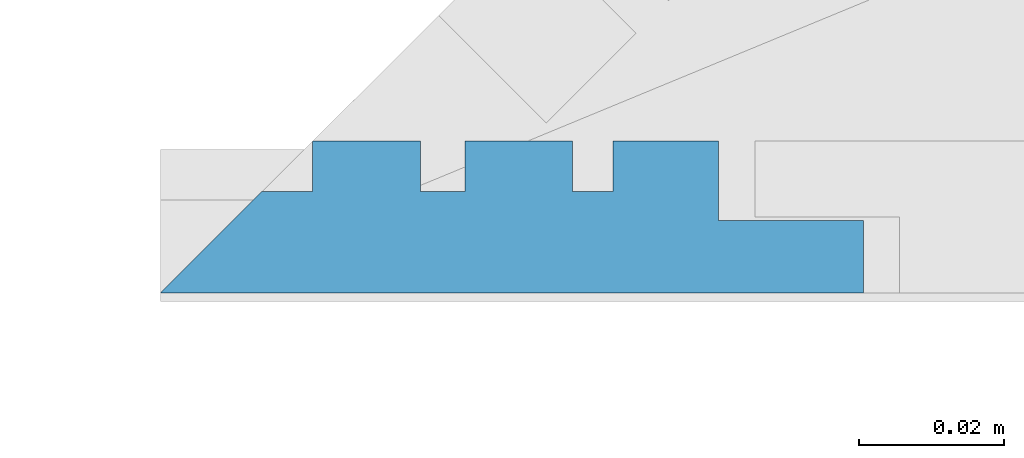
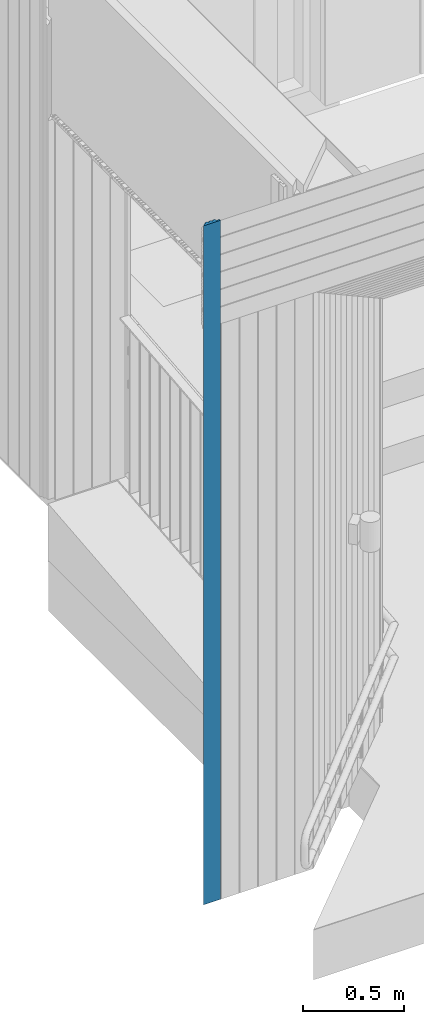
# One storey, part 95 of 418: 1 building element part, 1 element without a shape of its own.
"""IFC2X3 building model written with IfcOpenShell, lengths in millimetres."""

from ifc_helpers import new_model, entity, si_unit, converted_unit, derived_unit, money_unit, direction, frame, origin_with_axes, place, context, subcontext, project, spatial, polyline, outline, extrude, boolean, faceted_brep, material, type_object, element, aggregate, save


model = new_model("IFC2X3")

# Units and contexts
model_context = context("Model", 3, precision=0.01, world=origin_with_axes(), true_north=direction((0.0, 1.0)))
body_context = subcontext(model_context, "Body", "Model", "MODEL_VIEW")
ifc_project = project(units=[si_unit("LENGTHUNIT", "METRE", prefix="MILLI"), si_unit("AREAUNIT", "SQUARE_METRE"), si_unit("VOLUMEUNIT", "CUBIC_METRE"), converted_unit("PLANEANGLEUNIT", "DEGREE", entity("IfcPlaneAngleMeasure", 0.0174532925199), si_unit("PLANEANGLEUNIT", "RADIAN"), dimensions=[0, 0, 0, 0, 0, 0, 0]), si_unit("SOLIDANGLEUNIT", "STERADIAN"), money_unit("EUR"), converted_unit("TIMEUNIT", "Year", entity("IfcTimeMeasure", 31556926.0), si_unit("TIMEUNIT", "SECOND"), dimensions=[0, 0, 1, 0, 0, 0, 0]), si_unit("MASSUNIT", "GRAM", prefix="KILO"), si_unit("THERMODYNAMICTEMPERATUREUNIT", "DEGREE_CELSIUS"), si_unit("LUMINOUSINTENSITYUNIT", "LUMEN"), si_unit("ENERGYUNIT", "JOULE", prefix="MEGA"), derived_unit("THERMALCONDUCTANCEUNIT", [(si_unit("POWERUNIT", "WATT"), 1), (si_unit("LENGTHUNIT", "METRE"), -1), (si_unit("THERMODYNAMICTEMPERATUREUNIT", "KELVIN"), -1)]), derived_unit("SPECIFICHEATCAPACITYUNIT", [(si_unit("ENERGYUNIT", "JOULE"), 1), (si_unit("MASSUNIT", "GRAM", prefix="KILO"), -1), (si_unit("THERMODYNAMICTEMPERATUREUNIT", "KELVIN"), -1)]), derived_unit("MASSDENSITYUNIT", [(si_unit("MASSUNIT", "GRAM", prefix="KILO"), 1), (si_unit("VOLUMEUNIT", "CUBIC_METRE"), -1)])], contexts=[model_context])

# Site, building, storey
site_placement = place(None, origin_with_axes())
site = spatial("IfcSite", under=ifc_project, at=site_placement, Name="Paldiski mnt 245/1, Tallinn, Harjumaa", CompositionType="COMPLEX")
building_placement = place(site_placement, origin_with_axes())
building = spatial("IfcBuilding", under=site, at=building_placement, Name="RKAS Hoone üldnimetus (kasutust iseloomustav) -> IFC Project Manager -> SOLIBRI", CompositionType="ELEMENT")
storey_placement = place(building_placement, origin_with_axes())
storey = spatial("IfcBuildingStorey", under=building, at=storey_placement, Name="Esimene korrus", CompositionType="ELEMENT", Elevation=0.0)

# Proxy, building element part
building_element_proxy_type = type_object("IfcBuildingElementProxyType", Name="Laudis esiprofiil_01 21 x 622", PredefinedType="NOTDEFINED")
proxy_placement = place(storey_placement, frame((-45641.4622152, -18705.5141429, 0.0), z_axis=(0.0, 0.0, 1.0), x_axis=(0.0, 1.0, 0.0)))
proxy = element("IfcBuildingElementProxy", 1, at=proxy_placement, inside=storey, type_object=building_element_proxy_type, Name="Varikatus")
ifc_material = material(Name="Laudis 5072 Honka 45 horisontaalne raastas")
building_element_part_placement = place(proxy_placement, origin_with_axes())
building_element_part = element("IfcBuildingElementPart", 2, at=building_element_part_placement, material=ifc_material, Name="Laudis 5072 Honka 45 horisontaalne raastas", context=body_context, shape_type="CSG", body=[
    boolean("DIFFERENCE", boolean("DIFFERENCE", boolean("DIFFERENCE", boolean("DIFFERENCE", boolean("DIFFERENCE", boolean("DIFFERENCE", extrude(outline(polyline([(-21.0000013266, -55.7545733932), (-14.0000008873, -55.7545748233), (-14.0000008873, -61.3952431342), (-21.0000013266, -61.3952431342), (-21.0000013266, -75.9714304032), (-10.0000014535, -75.9714304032), (-10.0000000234, -95.9714304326), (-1.43879088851e-06, -95.9714304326), (8.28322394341e-09, 1.13997680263), (-14.0000008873, -12.860024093), (-14.0000008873, -19.8600231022), (-20.9999998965, -19.8600231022), (-20.9999998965, -34.7991407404), (-14.0000008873, -34.7991393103), (-14.0000008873, -40.9260801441), (-20.9999998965, -40.9260801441), (-21.0000013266, -55.7545733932)])), frame((0.0, 0.0, 0.0), z_axis=(0.0, 0.0, -1.0), x_axis=(-1.0, 0.0, 0.0)), (0.0, 0.0, -1.0), 4086.15997799), faceted_brep([(7.63172636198e-07, -515.971430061, 3569.02857112), (10.0000002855, -515.971430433, 3569.02857075), (10.0000002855, -515.971430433, 4086.15997799), (7.63172636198e-07, -515.971430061, 4086.15997799), (10.000001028, -495.971430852, 3589.02857033), (-3.20348192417e-08, -415.971430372, 3669.02857081), (10.5000010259, -415.971430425, 3669.02857076), (10.5000005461, -395.971429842, 3689.02857134), (20.9999998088, -395.971430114, 3689.02857107), (21.0000010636, -433.497524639, 3651.50247655), (14.0000005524, -433.497525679, 3651.50247551), (14.0000003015, -439.860022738, 3645.13997845), (20.99999981, -439.860022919, 3645.13997827), (20.9999998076, -454.79914009, 3630.20086109), (14.0000002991, -454.799139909, 3630.20086128), (14.0000007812, -460.926080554, 3624.07392063), (21.0000002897, -460.926080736, 3624.07392045), (21.0000013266, -475.754573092, 3609.24542809), (14.0000008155, -475.754574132, 3609.24542705), (14.0000015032, -481.395242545, 3603.60475864), (21.0000010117, -481.395242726, 3603.60475846), (21.0000007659, -495.971429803, 3589.02857138), (10.000001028, -495.971430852, 4086.15997799), (10.5000010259, -415.971430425, 4086.15997799), (-3.20348192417e-08, -415.971430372, 4086.15997799), (21.0000007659, -495.971429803, 4086.15997799), (21.0000010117, -481.395242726, 4086.15997799), (14.0000015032, -481.395242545, 4086.15997799), (14.0000008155, -475.754574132, 4086.15997799), (21.0000013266, -475.754573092, 4086.15997799), (21.0000002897, -460.926080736, 4086.15997799), (14.0000007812, -460.926080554, 4086.15997799), (14.0000002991, -454.799139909, 4086.15997799), (20.9999998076, -454.79914009, 4086.15997799), (20.99999981, -439.860022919, 4086.15997799), (14.0000003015, -439.860022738, 4086.15997799), (14.0000005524, -433.497525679, 4086.15997799), (21.0000010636, -433.497524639, 4086.15997799), (20.9999998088, -395.971430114, 4086.15997799), (10.5000005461, -395.971429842, 4086.15997799)], [[[0, 1, 2, 3]], [[4, 1, 0, 5, 6, 7, 8, 9, 10, 11, 12, 13, 14, 15, 16, 17, 18, 19, 20, 21]], [[1, 4, 22, 2]], [[23, 24, 3, 2, 22, 25, 26, 27, 28, 29, 30, 31, 32, 33, 34, 35, 36, 37, 38, 39]], [[5, 0, 3, 24]], [[6, 5, 24, 23]], [[7, 6, 23, 39]], [[8, 7, 39, 38]], [[9, 8, 38, 37]], [[10, 9, 37, 36]], [[11, 10, 36, 35]], [[12, 11, 35, 34]], [[13, 12, 34, 33]], [[14, 13, 33, 32]], [[15, 14, 32, 31]], [[16, 15, 31, 30]], [[17, 16, 30, 29]], [[18, 17, 29, 28]], [[19, 18, 28, 27]], [[20, 19, 27, 26]], [[21, 20, 26, 25]], [[4, 21, 25, 22]]])), faceted_brep([(7.63172636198e-07, -620.971430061, 3464.02857112), (10.0000002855, -620.971430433, 3464.02857075), (10.0000002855, -620.971430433, 4086.15997799), (7.63172636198e-07, -620.971430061, 4086.15997799), (10.000001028, -600.971430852, 3484.02857033), (-3.20348192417e-08, -520.971430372, 3564.02857081), (10.5000010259, -520.971430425, 3564.02857076), (10.5000005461, -500.971429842, 3584.02857134), (20.9999998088, -500.971430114, 3584.02857107), (21.0000010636, -538.497524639, 3546.50247655), (14.0000005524, -538.497525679, 3546.50247551), (14.0000003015, -544.860022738, 3540.13997845), (20.99999981, -544.860022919, 3540.13997827), (20.9999998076, -559.79914009, 3525.20086109), (14.0000002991, -559.799139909, 3525.20086128), (14.0000007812, -565.926080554, 3519.07392063), (21.0000002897, -565.926080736, 3519.07392045), (21.0000013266, -580.754573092, 3504.24542809), (14.0000008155, -580.754574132, 3504.24542705), (14.0000015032, -586.395242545, 3498.60475864), (21.0000010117, -586.395242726, 3498.60475846), (21.0000007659, -600.971429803, 3484.02857138), (10.000001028, -600.971430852, 4086.15997799), (10.5000010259, -520.971430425, 4086.15997799), (-3.20348192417e-08, -520.971430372, 4086.15997799), (21.0000007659, -600.971429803, 4086.15997799), (21.0000010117, -586.395242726, 4086.15997799), (14.0000015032, -586.395242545, 4086.15997799), (14.0000008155, -580.754574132, 4086.15997799), (21.0000013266, -580.754573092, 4086.15997799), (21.0000002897, -565.926080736, 4086.15997799), (14.0000007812, -565.926080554, 4086.15997799), (14.0000002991, -559.799139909, 4086.15997799), (20.9999998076, -559.79914009, 4086.15997799), (20.99999981, -544.860022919, 4086.15997799), (14.0000003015, -544.860022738, 4086.15997799), (14.0000005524, -538.497525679, 4086.15997799), (21.0000010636, -538.497524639, 4086.15997799), (20.9999998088, -500.971430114, 4086.15997799), (10.5000005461, -500.971429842, 4086.15997799)], [[[0, 1, 2, 3]], [[4, 1, 0, 5, 6, 7, 8, 9, 10, 11, 12, 13, 14, 15, 16, 17, 18, 19, 20, 21]], [[1, 4, 22, 2]], [[23, 24, 3, 2, 22, 25, 26, 27, 28, 29, 30, 31, 32, 33, 34, 35, 36, 37, 38, 39]], [[5, 0, 3, 24]], [[6, 5, 24, 23]], [[7, 6, 23, 39]], [[8, 7, 39, 38]], [[9, 8, 38, 37]], [[10, 9, 37, 36]], [[11, 10, 36, 35]], [[12, 11, 35, 34]], [[13, 12, 34, 33]], [[14, 13, 33, 32]], [[15, 14, 32, 31]], [[16, 15, 31, 30]], [[17, 16, 30, 29]], [[18, 17, 29, 28]], [[19, 18, 28, 27]], [[20, 19, 27, 26]], [[21, 20, 26, 25]], [[4, 21, 25, 22]]])), faceted_brep([(7.63172636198e-07, -305.971430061, 3779.02857112), (10.0000002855, -305.971430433, 3779.02857075), (10.0000002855, -305.971430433, 4086.15997799), (7.63172636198e-07, -305.971430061, 4086.15997799), (10.000001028, -285.971430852, 3799.02857033), (-3.20348192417e-08, -205.971430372, 3879.02857081), (10.5000010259, -205.971430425, 3879.02857076), (10.5000005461, -185.971429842, 3899.02857134), (20.9999998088, -185.971430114, 3899.02857107), (21.0000010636, -223.497524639, 3861.50247655), (14.0000005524, -223.497525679, 3861.50247551), (14.0000003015, -229.860022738, 3855.13997845), (20.99999981, -229.860022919, 3855.13997827), (20.9999998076, -244.79914009, 3840.20086109), (14.0000002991, -244.799139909, 3840.20086128), (14.0000007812, -250.926080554, 3834.07392063), (21.0000002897, -250.926080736, 3834.07392045), (21.0000013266, -265.754573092, 3819.24542809), (14.0000008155, -265.754574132, 3819.24542705), (14.0000015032, -271.395242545, 3813.60475864), (21.0000010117, -271.395242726, 3813.60475846), (21.0000007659, -285.971429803, 3799.02857138), (10.000001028, -285.971430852, 4086.15997799), (10.5000010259, -205.971430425, 4086.15997799), (-3.20348192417e-08, -205.971430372, 4086.15997799), (21.0000007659, -285.971429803, 4086.15997799), (21.0000010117, -271.395242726, 4086.15997799), (14.0000015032, -271.395242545, 4086.15997799), (14.0000008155, -265.754574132, 4086.15997799), (21.0000013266, -265.754573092, 4086.15997799), (21.0000002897, -250.926080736, 4086.15997799), (14.0000007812, -250.926080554, 4086.15997799), (14.0000002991, -244.799139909, 4086.15997799), (20.9999998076, -244.79914009, 4086.15997799), (20.99999981, -229.860022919, 4086.15997799), (14.0000003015, -229.860022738, 4086.15997799), (14.0000005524, -223.497525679, 4086.15997799), (21.0000010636, -223.497524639, 4086.15997799), (20.9999998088, -185.971430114, 4086.15997799), (10.5000005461, -185.971429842, 4086.15997799)], [[[0, 1, 2, 3]], [[4, 1, 0, 5, 6, 7, 8, 9, 10, 11, 12, 13, 14, 15, 16, 17, 18, 19, 20, 21]], [[1, 4, 22, 2]], [[23, 24, 3, 2, 22, 25, 26, 27, 28, 29, 30, 31, 32, 33, 34, 35, 36, 37, 38, 39]], [[5, 0, 3, 24]], [[6, 5, 24, 23]], [[7, 6, 23, 39]], [[8, 7, 39, 38]], [[9, 8, 38, 37]], [[10, 9, 37, 36]], [[11, 10, 36, 35]], [[12, 11, 35, 34]], [[13, 12, 34, 33]], [[14, 13, 33, 32]], [[15, 14, 32, 31]], [[16, 15, 31, 30]], [[17, 16, 30, 29]], [[18, 17, 29, 28]], [[19, 18, 28, 27]], [[20, 19, 27, 26]], [[21, 20, 26, 25]], [[4, 21, 25, 22]]])), faceted_brep([(7.63172636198e-07, -410.971430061, 3674.02857112), (10.0000002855, -410.971430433, 3674.02857075), (10.0000002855, -410.971430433, 4086.15997799), (7.63172636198e-07, -410.971430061, 4086.15997799), (10.000001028, -390.971430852, 3694.02857033), (-3.20348192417e-08, -310.971430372, 3774.02857081), (10.5000010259, -310.971430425, 3774.02857076), (10.5000005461, -290.971429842, 3794.02857134), (20.9999998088, -290.971430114, 3794.02857107), (21.0000010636, -328.497524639, 3756.50247655), (14.0000005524, -328.497525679, 3756.50247551), (14.0000003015, -334.860022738, 3750.13997845), (20.99999981, -334.860022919, 3750.13997827), (20.9999998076, -349.79914009, 3735.20086109), (14.0000002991, -349.799139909, 3735.20086128), (14.0000007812, -355.926080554, 3729.07392063), (21.0000002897, -355.926080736, 3729.07392045), (21.0000013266, -370.754573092, 3714.24542809), (14.0000008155, -370.754574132, 3714.24542705), (14.0000015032, -376.395242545, 3708.60475864), (21.0000010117, -376.395242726, 3708.60475846), (21.0000007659, -390.971429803, 3694.02857138), (10.000001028, -390.971430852, 4086.15997799), (10.5000010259, -310.971430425, 4086.15997799), (-3.20348192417e-08, -310.971430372, 4086.15997799), (21.0000007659, -390.971429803, 4086.15997799), (21.0000010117, -376.395242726, 4086.15997799), (14.0000015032, -376.395242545, 4086.15997799), (14.0000008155, -370.754574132, 4086.15997799), (21.0000013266, -370.754573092, 4086.15997799), (21.0000002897, -355.926080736, 4086.15997799), (14.0000007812, -355.926080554, 4086.15997799), (14.0000002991, -349.799139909, 4086.15997799), (20.9999998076, -349.79914009, 4086.15997799), (20.99999981, -334.860022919, 4086.15997799), (14.0000003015, -334.860022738, 4086.15997799), (14.0000005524, -328.497525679, 4086.15997799), (21.0000010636, -328.497524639, 4086.15997799), (20.9999998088, -290.971430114, 4086.15997799), (10.5000005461, -290.971429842, 4086.15997799)], [[[0, 1, 2, 3]], [[4, 1, 0, 5, 6, 7, 8, 9, 10, 11, 12, 13, 14, 15, 16, 17, 18, 19, 20, 21]], [[1, 4, 22, 2]], [[23, 24, 3, 2, 22, 25, 26, 27, 28, 29, 30, 31, 32, 33, 34, 35, 36, 37, 38, 39]], [[5, 0, 3, 24]], [[6, 5, 24, 23]], [[7, 6, 23, 39]], [[8, 7, 39, 38]], [[9, 8, 38, 37]], [[10, 9, 37, 36]], [[11, 10, 36, 35]], [[12, 11, 35, 34]], [[13, 12, 34, 33]], [[14, 13, 33, 32]], [[15, 14, 32, 31]], [[16, 15, 31, 30]], [[17, 16, 30, 29]], [[18, 17, 29, 28]], [[19, 18, 28, 27]], [[20, 19, 27, 26]], [[21, 20, 26, 25]], [[4, 21, 25, 22]]])), faceted_brep([(1.4387921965e-06, -95.9714304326, 3989.02857075), (10.0000000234, -95.9714304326, 3989.02857075), (10.0000000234, -95.9714304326, 4086.15997799), (1.4387921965e-06, -95.9714304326, 4086.15997799), (10.0000014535, -75.9714304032, 4009.02857078), (-8.28137558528e-09, 1.13997680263, 4086.13997799), (14.0000008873, -12.860024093, 4072.13997709), (14.0000008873, -19.8600231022, 4065.13997808), (20.9999998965, -19.8600231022, 4065.13997808), (20.9999998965, -34.7991407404, 4050.20086044), (14.0000008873, -34.7991393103, 4050.20086187), (14.0000008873, -40.9260801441, 4044.07392104), (20.9999998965, -40.9260801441, 4044.07392104), (21.0000013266, -55.7545733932, 4029.24542779), (14.0000008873, -55.7545748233, 4029.24542636), (14.0000008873, -61.3952431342, 4023.60475805), (21.0000013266, -61.3952431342, 4023.60475805), (21.0000013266, -75.9714304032, 4009.02857078), (10.0000014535, -75.9714304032, 4086.15997799), (14.0000008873, -55.7545748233, 4086.15997799), (21.0000013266, -55.7545733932, 4086.15997799), (20.9999998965, -40.9260801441, 4086.15997799), (14.0000008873, -40.9260801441, 4086.15997799), (14.0000008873, -34.7991393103, 4086.15997799), (20.9999998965, -34.7991407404, 4086.15997799), (20.9999998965, -19.8600231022, 4086.15997799), (14.0000008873, -19.8600231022, 4086.15997799), (14.0000008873, -12.860024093, 4086.15997799), (-8.28137558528e-09, 1.13997680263, 4086.15997799), (21.0000013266, -75.9714304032, 4086.15997799), (21.0000013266, -61.3952431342, 4086.15997799), (14.0000008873, -61.3952431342, 4086.15997799)], [[[0, 1, 2, 3]], [[4, 1, 0, 5, 6, 7, 8, 9, 10, 11, 12, 13, 14, 15, 16, 17]], [[1, 4, 18, 2]], [[19, 20, 21, 22, 23, 24, 25, 26, 27, 28, 3, 2, 18, 29, 30, 31]], [[5, 0, 3, 28]], [[6, 5, 28, 27]], [[7, 6, 27, 26]], [[8, 7, 26, 25]], [[9, 8, 25, 24]], [[10, 9, 24, 23]], [[11, 10, 23, 22]], [[12, 11, 22, 21]], [[13, 12, 21, 20]], [[14, 13, 20, 19]], [[15, 14, 19, 31]], [[16, 15, 31, 30]], [[17, 16, 30, 29]], [[4, 17, 29, 18]]])), faceted_brep([(7.63172636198e-07, -200.971430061, 3884.02857112), (10.0000002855, -200.971430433, 3884.02857075), (10.0000002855, -200.971430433, 4086.15997799), (7.63172636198e-07, -200.971430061, 4086.15997799), (10.000001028, -180.971430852, 3904.02857033), (-3.20348192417e-08, -100.971430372, 3984.02857081), (10.5000010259, -100.971430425, 3984.02857076), (10.5000005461, -80.9714298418, 4004.02857134), (20.9999998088, -80.9714301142, 4004.02857107), (21.0000010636, -118.497524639, 3966.50247655), (14.0000005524, -118.497525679, 3966.50247551), (14.0000003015, -124.860022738, 3960.13997845), (20.99999981, -124.860022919, 3960.13997827), (20.9999998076, -139.79914009, 3945.20086109), (14.0000002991, -139.799139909, 3945.20086128), (14.0000007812, -145.926080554, 3939.07392063), (21.0000002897, -145.926080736, 3939.07392045), (21.0000013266, -160.754573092, 3924.24542809), (14.0000008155, -160.754574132, 3924.24542705), (14.0000015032, -166.395242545, 3918.60475864), (21.0000010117, -166.395242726, 3918.60475846), (21.0000007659, -180.971429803, 3904.02857138), (10.000001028, -180.971430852, 4086.15997799), (10.5000010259, -100.971430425, 4086.15997799), (-3.20348192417e-08, -100.971430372, 4086.15997799), (21.0000007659, -180.971429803, 4086.15997799), (21.0000010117, -166.395242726, 4086.15997799), (14.0000015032, -166.395242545, 4086.15997799), (14.0000008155, -160.754574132, 4086.15997799), (21.0000013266, -160.754573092, 4086.15997799), (21.0000002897, -145.926080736, 4086.15997799), (14.0000007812, -145.926080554, 4086.15997799), (14.0000002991, -139.799139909, 4086.15997799), (20.9999998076, -139.79914009, 4086.15997799), (20.99999981, -124.860022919, 4086.15997799), (14.0000003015, -124.860022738, 4086.15997799), (14.0000005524, -118.497525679, 4086.15997799), (21.0000010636, -118.497524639, 4086.15997799), (20.9999998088, -80.9714301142, 4086.15997799), (10.5000005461, -80.9714298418, 4086.15997799)], [[[0, 1, 2, 3]], [[4, 1, 0, 5, 6, 7, 8, 9, 10, 11, 12, 13, 14, 15, 16, 17, 18, 19, 20, 21]], [[1, 4, 22, 2]], [[23, 24, 3, 2, 22, 25, 26, 27, 28, 29, 30, 31, 32, 33, 34, 35, 36, 37, 38, 39]], [[5, 0, 3, 24]], [[6, 5, 24, 23]], [[7, 6, 23, 39]], [[8, 7, 39, 38]], [[9, 8, 38, 37]], [[10, 9, 37, 36]], [[11, 10, 36, 35]], [[12, 11, 35, 34]], [[13, 12, 34, 33]], [[14, 13, 33, 32]], [[15, 14, 32, 31]], [[16, 15, 31, 30]], [[17, 16, 30, 29]], [[18, 17, 29, 28]], [[19, 18, 28, 27]], [[20, 19, 27, 26]], [[21, 20, 26, 25]], [[4, 21, 25, 22]]])),
])
aggregate(proxy, [building_element_part])

save(model, "model.ifc")
